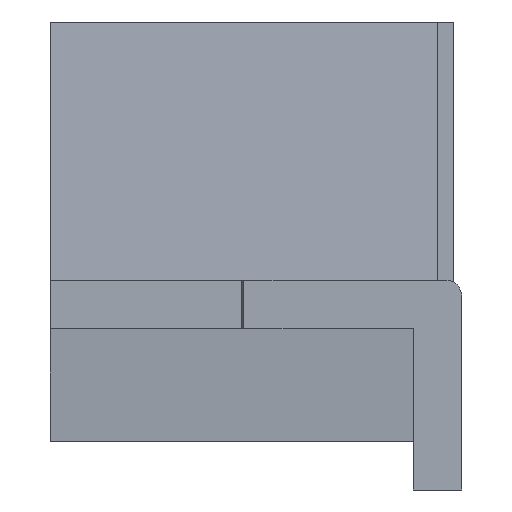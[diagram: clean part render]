
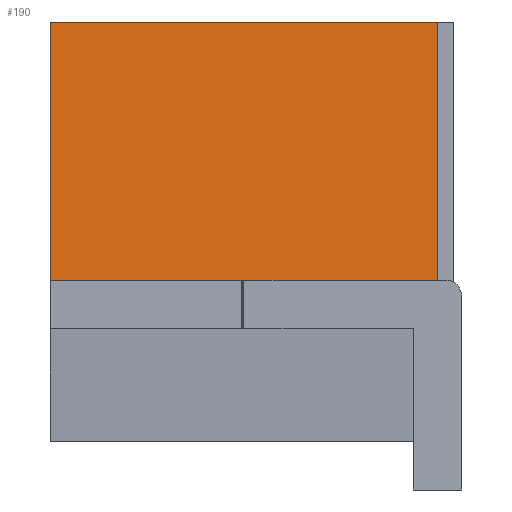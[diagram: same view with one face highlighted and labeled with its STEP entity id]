
A CAD part, front view. The second image highlights one B-rep face of the part: STEP entity #190.
In plain terms, the highlighted planar face has unit normal (0, -0.998, 0.07).
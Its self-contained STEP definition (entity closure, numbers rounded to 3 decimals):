
#190=ADVANCED_FACE('',(#266),#267,.F.);
#266=FACE_OUTER_BOUND('',#380,.T.);
#267=PLANE('',#381);
#380=EDGE_LOOP('',(#597,#598,#599,#600));
#381=AXIS2_PLACEMENT_3D('',#601,#602,#603);
#597=ORIENTED_EDGE('',*,*,#965,.F.);
#598=ORIENTED_EDGE('',*,*,#966,.F.);
#599=ORIENTED_EDGE('',*,*,#967,.F.);
#600=ORIENTED_EDGE('',*,*,#968,.F.);
#601=CARTESIAN_POINT('',(-0.6,-1.544,0.));
#602=DIRECTION('',(0.,0.998,-0.07));
#603=DIRECTION('',(-1.0,0.0,0.));
#965=EDGE_CURVE('',#1151,#1152,#1153,.T.);
#966=EDGE_CURVE('',#1154,#1151,#1155,.T.);
#967=EDGE_CURVE('',#1156,#1154,#1157,.T.);
#968=EDGE_CURVE('',#1152,#1156,#1158,.T.);
#1151=VERTEX_POINT('',#1426);
#1152=VERTEX_POINT('',#1427);
#1153=LINE('',#1428,#1429);
#1154=VERTEX_POINT('',#1430);
#1155=LINE('',#1431,#1432);
#1156=VERTEX_POINT('',#1433);
#1157=LINE('',#1434,#1435);
#1158=LINE('',#1436,#1437);
#1426=CARTESIAN_POINT('',(0.6,-1.544,0.));
#1427=CARTESIAN_POINT('',(0.6,-1.6,-0.8));
#1428=CARTESIAN_POINT('',(0.6,-1.544,0.));
#1429=VECTOR('',#1737,0.802);
#1430=CARTESIAN_POINT('',(-0.6,-1.544,0.));
#1431=CARTESIAN_POINT('',(-0.6,-1.544,0.));
#1432=VECTOR('',#1738,1.2);
#1433=CARTESIAN_POINT('',(-0.6,-1.6,-0.8));
#1434=CARTESIAN_POINT('',(-0.6,-1.6,-0.8));
#1435=VECTOR('',#1739,0.802);
#1436=CARTESIAN_POINT('',(0.6,-1.6,-0.8));
#1437=VECTOR('',#1740,1.2);
#1737=DIRECTION('',(0.,-0.07,-0.998));
#1738=DIRECTION('',(1.0,0.,0.));
#1739=DIRECTION('',(0.,0.07,0.998));
#1740=DIRECTION('',(-1.0,0.,0.));
